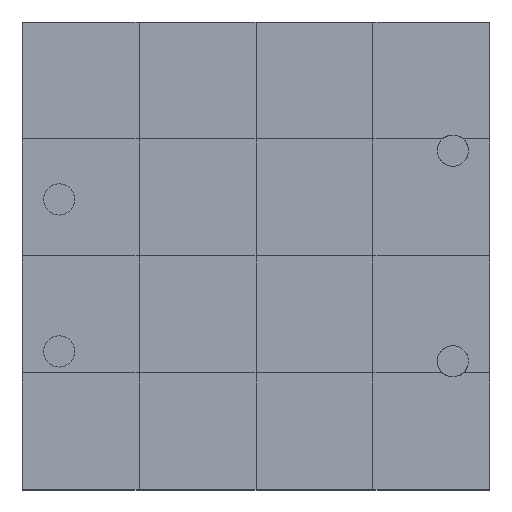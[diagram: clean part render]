
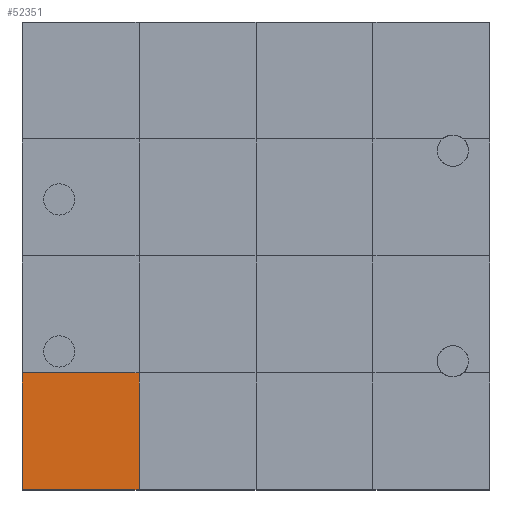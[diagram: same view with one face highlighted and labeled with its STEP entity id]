
A CAD part, top view. The second image highlights one B-rep face of the part: STEP entity #52351.
In plain terms, the highlighted planar face has unit normal (0, 0, 1).
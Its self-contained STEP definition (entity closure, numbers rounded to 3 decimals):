
#52162 = VERTEX_POINT('',#52163);
#52163 = CARTESIAN_POINT('',(0.,0.,1.5));
#52170 = PLANE('',#52171);
#52171 = AXIS2_PLACEMENT_3D('',#52172,#52173,#52174);
#52172 = CARTESIAN_POINT('',(0.,0.,0.));
#52173 = DIRECTION('',(1.,0.,-0.));
#52174 = DIRECTION('',(0.,0.,1.));
#52182 = PLANE('',#52183);
#52183 = AXIS2_PLACEMENT_3D('',#52184,#52185,#52186);
#52184 = CARTESIAN_POINT('',(0.,0.,0.));
#52185 = DIRECTION('',(-0.,1.,0.));
#52186 = DIRECTION('',(0.,0.,1.));
#52223 = VERTEX_POINT('',#52224);
#52224 = CARTESIAN_POINT('',(0.,3.,1.5));
#52250 = EDGE_CURVE('',#52162,#52223,#52251,.T.);
#52251 = SURFACE_CURVE('',#52252,(#52256,#52263),.PCURVE_S1.);
#52252 = LINE('',#52253,#52254);
#52253 = CARTESIAN_POINT('',(0.,0.,1.5));
#52254 = VECTOR('',#52255,1.);
#52255 = DIRECTION('',(-0.,1.,0.));
#52256 = PCURVE('',#52170,#52257);
#52257 = DEFINITIONAL_REPRESENTATION('',(#52258),#52262);
#52258 = LINE('',#52259,#52260);
#52259 = CARTESIAN_POINT('',(1.5,0.));
#52260 = VECTOR('',#52261,1.);
#52261 = DIRECTION('',(0.,-1.));
#52262 = ( GEOMETRIC_REPRESENTATION_CONTEXT(2) 
PARAMETRIC_REPRESENTATION_CONTEXT() REPRESENTATION_CONTEXT('2D SPACE',''
  ) );
#52263 = PCURVE('',#52264,#52269);
#52264 = PLANE('',#52265);
#52265 = AXIS2_PLACEMENT_3D('',#52266,#52267,#52268);
#52266 = CARTESIAN_POINT('',(0.,0.,1.5));
#52267 = DIRECTION('',(0.,0.,1.));
#52268 = DIRECTION('',(1.,0.,-0.));
#52269 = DEFINITIONAL_REPRESENTATION('',(#52270),#52274);
#52270 = LINE('',#52271,#52272);
#52271 = CARTESIAN_POINT('',(0.,0.));
#52272 = VECTOR('',#52273,1.);
#52273 = DIRECTION('',(0.,1.));
#52274 = ( GEOMETRIC_REPRESENTATION_CONTEXT(2) 
PARAMETRIC_REPRESENTATION_CONTEXT() REPRESENTATION_CONTEXT('2D SPACE',''
  ) );
#52303 = EDGE_CURVE('',#52162,#52304,#52306,.T.);
#52304 = VERTEX_POINT('',#52305);
#52305 = CARTESIAN_POINT('',(3.,0.,1.5));
#52306 = SURFACE_CURVE('',#52307,(#52311,#52318),.PCURVE_S1.);
#52307 = LINE('',#52308,#52309);
#52308 = CARTESIAN_POINT('',(0.,0.,1.5));
#52309 = VECTOR('',#52310,1.);
#52310 = DIRECTION('',(1.,0.,-0.));
#52311 = PCURVE('',#52182,#52312);
#52312 = DEFINITIONAL_REPRESENTATION('',(#52313),#52317);
#52313 = LINE('',#52314,#52315);
#52314 = CARTESIAN_POINT('',(1.5,0.));
#52315 = VECTOR('',#52316,1.);
#52316 = DIRECTION('',(0.,1.));
#52317 = ( GEOMETRIC_REPRESENTATION_CONTEXT(2) 
PARAMETRIC_REPRESENTATION_CONTEXT() REPRESENTATION_CONTEXT('2D SPACE',''
  ) );
#52318 = PCURVE('',#52264,#52319);
#52319 = DEFINITIONAL_REPRESENTATION('',(#52320),#52324);
#52320 = LINE('',#52321,#52322);
#52321 = CARTESIAN_POINT('',(0.,0.));
#52322 = VECTOR('',#52323,1.);
#52323 = DIRECTION('',(1.,0.));
#52324 = ( GEOMETRIC_REPRESENTATION_CONTEXT(2) 
PARAMETRIC_REPRESENTATION_CONTEXT() REPRESENTATION_CONTEXT('2D SPACE',''
  ) );
#52351 = ADVANCED_FACE('',(#52352),#52264,.T.);
#52352 = FACE_BOUND('',#52353,.T.);
#52353 = EDGE_LOOP('',(#52354,#52355,#52356,#52384));
#52354 = ORIENTED_EDGE('',*,*,#52250,.F.);
#52355 = ORIENTED_EDGE('',*,*,#52303,.T.);
#52356 = ORIENTED_EDGE('',*,*,#52357,.T.);
#52357 = EDGE_CURVE('',#52304,#52358,#52360,.T.);
#52358 = VERTEX_POINT('',#52359);
#52359 = CARTESIAN_POINT('',(3.,3.,1.5));
#52360 = SURFACE_CURVE('',#52361,(#52365,#52372),.PCURVE_S1.);
#52361 = LINE('',#52362,#52363);
#52362 = CARTESIAN_POINT('',(3.,0.,1.5));
#52363 = VECTOR('',#52364,1.);
#52364 = DIRECTION('',(-0.,1.,0.));
#52365 = PCURVE('',#52264,#52366);
#52366 = DEFINITIONAL_REPRESENTATION('',(#52367),#52371);
#52367 = LINE('',#52368,#52369);
#52368 = CARTESIAN_POINT('',(3.,0.));
#52369 = VECTOR('',#52370,1.);
#52370 = DIRECTION('',(0.,1.));
#52371 = ( GEOMETRIC_REPRESENTATION_CONTEXT(2) 
PARAMETRIC_REPRESENTATION_CONTEXT() REPRESENTATION_CONTEXT('2D SPACE',''
  ) );
#52372 = PCURVE('',#52373,#52378);
#52373 = PLANE('',#52374);
#52374 = AXIS2_PLACEMENT_3D('',#52375,#52376,#52377);
#52375 = CARTESIAN_POINT('',(3.,0.,1.5));
#52376 = DIRECTION('',(0.,0.,1.));
#52377 = DIRECTION('',(1.,0.,-0.));
#52378 = DEFINITIONAL_REPRESENTATION('',(#52379),#52383);
#52379 = LINE('',#52380,#52381);
#52380 = CARTESIAN_POINT('',(0.,0.));
#52381 = VECTOR('',#52382,1.);
#52382 = DIRECTION('',(0.,1.));
#52383 = ( GEOMETRIC_REPRESENTATION_CONTEXT(2) 
PARAMETRIC_REPRESENTATION_CONTEXT() REPRESENTATION_CONTEXT('2D SPACE',''
  ) );
#52384 = ORIENTED_EDGE('',*,*,#52385,.F.);
#52385 = EDGE_CURVE('',#52223,#52358,#52386,.T.);
#52386 = SURFACE_CURVE('',#52387,(#52391,#52398),.PCURVE_S1.);
#52387 = LINE('',#52388,#52389);
#52388 = CARTESIAN_POINT('',(0.,3.,1.5));
#52389 = VECTOR('',#52390,1.);
#52390 = DIRECTION('',(1.,0.,-0.));
#52391 = PCURVE('',#52264,#52392);
#52392 = DEFINITIONAL_REPRESENTATION('',(#52393),#52397);
#52393 = LINE('',#52394,#52395);
#52394 = CARTESIAN_POINT('',(0.,3.));
#52395 = VECTOR('',#52396,1.);
#52396 = DIRECTION('',(1.,0.));
#52397 = ( GEOMETRIC_REPRESENTATION_CONTEXT(2) 
PARAMETRIC_REPRESENTATION_CONTEXT() REPRESENTATION_CONTEXT('2D SPACE',''
  ) );
#52398 = PCURVE('',#52399,#52404);
#52399 = PLANE('',#52400);
#52400 = AXIS2_PLACEMENT_3D('',#52401,#52402,#52403);
#52401 = CARTESIAN_POINT('',(0.,3.,1.5));
#52402 = DIRECTION('',(0.,0.,1.));
#52403 = DIRECTION('',(1.,0.,-0.));
#52404 = DEFINITIONAL_REPRESENTATION('',(#52405),#52409);
#52405 = LINE('',#52406,#52407);
#52406 = CARTESIAN_POINT('',(0.,0.));
#52407 = VECTOR('',#52408,1.);
#52408 = DIRECTION('',(1.,0.));
#52409 = ( GEOMETRIC_REPRESENTATION_CONTEXT(2) 
PARAMETRIC_REPRESENTATION_CONTEXT() REPRESENTATION_CONTEXT('2D SPACE',''
  ) );
